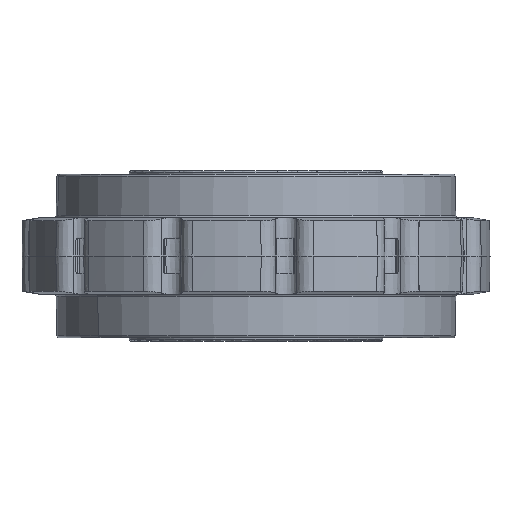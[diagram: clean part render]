
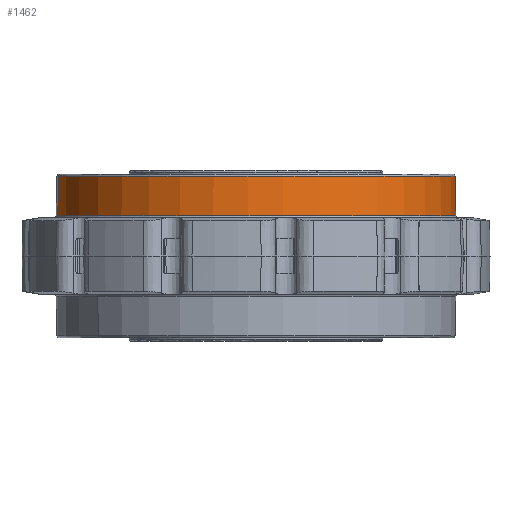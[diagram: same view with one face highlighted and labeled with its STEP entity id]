
A CAD part, front view. The second image highlights one B-rep face of the part: STEP entity #1462.
In plain terms, the highlighted conical face has half-angle 1 degrees and reference radius 23.5 mm.
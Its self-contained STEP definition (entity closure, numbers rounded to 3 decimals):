
#1462 = ADVANCED_FACE ( 'NONE', ( #12808 ), #4476, .T. ) ;
#2923 = EDGE_LOOP ( 'NONE', ( #4108, #4110, #4109, #4111 ) ) ;
#4108 = ORIENTED_EDGE ( 'NONE', *, *, #4605, .T. ) ;
#4109 = ORIENTED_EDGE ( 'NONE', *, *, #4574, .T. ) ;
#4110 = ORIENTED_EDGE ( 'NONE', *, *, #4604, .T. ) ;
#4111 = ORIENTED_EDGE ( 'NONE', *, *, #4606, .F. ) ;
#4476 = CONICAL_SURFACE ( 'NONE', #4482, 23.5, 0.017 ) ;
#4482 = AXIS2_PLACEMENT_3D ( 'NONE', #34736, #34737, #34738 ) ;
#4574 = EDGE_CURVE ( 'NONE', #6171, #6169, #16899, .T. ) ;
#4604 = EDGE_CURVE ( 'NONE', #12470, #6171, #13204, .T. ) ;
#4605 = EDGE_CURVE ( 'NONE', #12465, #12470, #16912, .T. ) ;
#4606 = EDGE_CURVE ( 'NONE', #12465, #6169, #13205, .T. ) ;
#6169 = VERTEX_POINT ( 'NONE', #24650 ) ;
#6171 = VERTEX_POINT ( 'NONE', #24652 ) ;
#12465 = VERTEX_POINT ( 'NONE', #19417 ) ;
#12470 = VERTEX_POINT ( 'NONE', #19422 ) ;
#12808 = FACE_OUTER_BOUND ( 'NONE', #2923, .T. ) ;
#13204 = LINE ( 'NONE', #17772, #16945 ) ;
#13205 = LINE ( 'NONE', #17780, #16948 ) ;
#16899 = CIRCLE ( 'NONE', #16900, 23.496 ) ;
#16900 = AXIS2_PLACEMENT_3D ( 'NONE', #17632, #17633, #17634 ) ;
#16912 = CIRCLE ( 'NONE', #16946, 23.415 ) ;
#16945 = VECTOR ( 'NONE', #17773, 1000. ) ;
#16946 = AXIS2_PLACEMENT_3D ( 'NONE', #17775, #17777, #17778 ) ;
#16948 = VECTOR ( 'NONE', #17781, 1000. ) ;
#17632 = CARTESIAN_POINT ( 'NONE',  ( 0., 0., 4.746 ) ) ;
#17633 = DIRECTION ( 'NONE',  ( 0., 0., 1. ) ) ;
#17634 = DIRECTION ( 'NONE',  ( 1., 0., 0. ) ) ;
#17772 = CARTESIAN_POINT ( 'NONE',  ( -23.5, 0., 4.5 ) ) ;
#17773 = DIRECTION ( 'NONE',  ( -0.017, 0., -1. ) ) ;
#17775 = CARTESIAN_POINT ( 'NONE',  ( 0., 0., 9.354 ) ) ;
#17777 = DIRECTION ( 'NONE',  ( 0., 0., -1. ) ) ;
#17778 = DIRECTION ( 'NONE',  ( -1., 0., 0. ) ) ;
#17780 = CARTESIAN_POINT ( 'NONE',  ( 23.5, 0., 4.5 ) ) ;
#17781 = DIRECTION ( 'NONE',  ( 0.017, 0., -1. ) ) ;
#19417 = CARTESIAN_POINT ( 'NONE',  ( 23.415, 0., 9.354 ) ) ;
#19422 = CARTESIAN_POINT ( 'NONE',  ( -23.415, 0., 9.354 ) ) ;
#24650 = CARTESIAN_POINT ( 'NONE',  ( 23.496, 0., 4.746 ) ) ;
#24652 = CARTESIAN_POINT ( 'NONE',  ( -23.496, 0., 4.746 ) ) ;
#34736 = CARTESIAN_POINT ( 'NONE',  ( 0., 0., 4.5 ) ) ;
#34737 = DIRECTION ( 'NONE',  ( 0., 0., -1. ) ) ;
#34738 = DIRECTION ( 'NONE',  ( 1., 0., 0. ) ) ;
